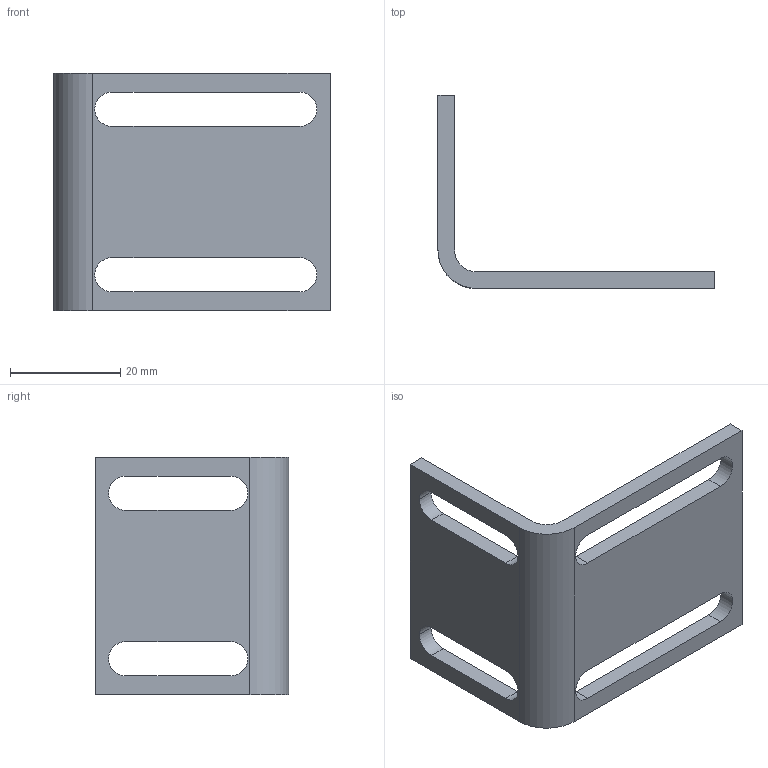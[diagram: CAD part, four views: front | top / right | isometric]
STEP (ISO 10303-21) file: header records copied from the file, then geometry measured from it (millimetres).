
FILE_DESCRIPTION (( 'STEP AP214' ), '1' );
FILE_NAME ('093040w.STEP', '2013-01-22T13:06:43', ( '' ), ( '' ), 'SwSTEP 2.0', 'SolidWorks 2012', '' );
FILE_SCHEMA (( 'AUTOMOTIVE_DESIGN' ));
Length unit declared in the file: millimetre
Products named in the file (1): 093040w
Bounding box: 50 x 35 x 43 mm (x, y, z)
Volume: 7939.6 mm3; surface area: 6898.6 mm2
Topology: 1 solids, 1 shells, 28 faces, 78 edges, 52 vertices
Faces by surface type: plane 16, cylinder 12
Entity records: 956 total; most frequent: DIRECTION 160, CARTESIAN_POINT 159, ORIENTED_EDGE 156, EDGE_CURVE 78, LINE 54, VECTOR 54, AXIS2_PLACEMENT_3D 53, VERTEX_POINT 52
